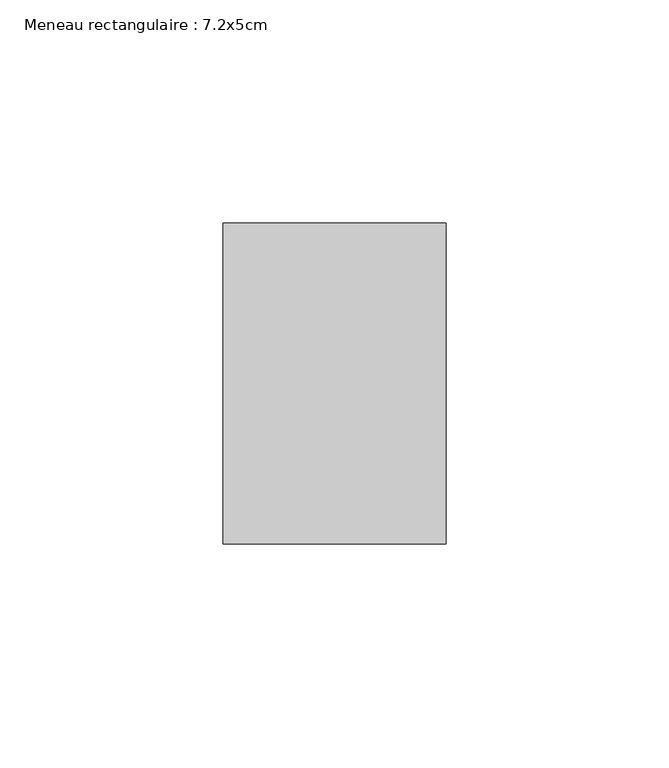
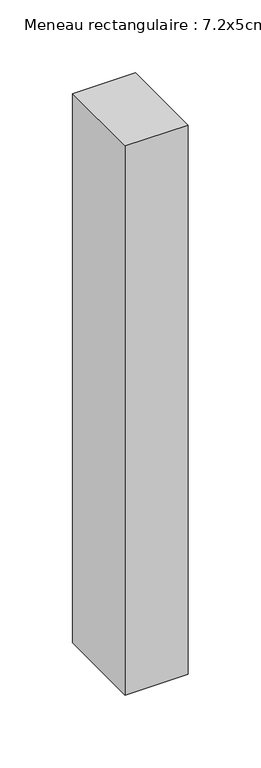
"""IFC4 building model written with IfcOpenShell, lengths in millimetres: member geometry, Meneau rectangulaire : 7.2x5cm."""

from ifc_helpers import new_model, si_unit, frame, origin, place, context, project, spatial, polyline, outline, extrude, source, transform, mapped, element, save


def meneau_rectangulaire_7_2x5cm_fa32825e(model_context):
    return source(origin(), model_context, "Body", "SweptSolid", [
        extrude(outline(polyline([(25.0, 36.0), (25.0, -36.0), (-25.0, -36.0), (-25.0, 36.0), (25.0, 36.0)])), frame((0.0, 0.0, -460.0), z_axis=(0.0, 0.0, 1.0), x_axis=(1.0, 0.0, 0.0)), (0.0, 0.0, 1.0), 460.0),
    ])


if __name__ == "__main__":
    model = new_model("IFC4")
    model_context = context("Model", 3, world=origin())
    ifc_project = project(units=[si_unit("LENGTHUNIT", "METRE", prefix="MILLI")], contexts=[model_context])
    site = spatial("IfcSite", under=ifc_project)
    building = spatial("IfcBuilding", under=site)
    placement = place(None, origin())
    meneau_rectangulaire_7_2x5cm_shape = meneau_rectangulaire_7_2x5cm_fa32825e(model_context)
    element("IfcMember", 1, ObjectType="Meneau rectangulaire : 7.2x5cm", at=placement, inside=building, context=model_context, shape_type="MappedRepresentation", body=[
        mapped(meneau_rectangulaire_7_2x5cm_shape, transform((0.0, 0.0, 0.0), x_axis=(1.0, 0.0, 0.0), y_axis=(0.0, 1.0, 0.0), z_axis=(0.0, 0.0, 1.0))),
    ])
    save(model, "model.ifc")
